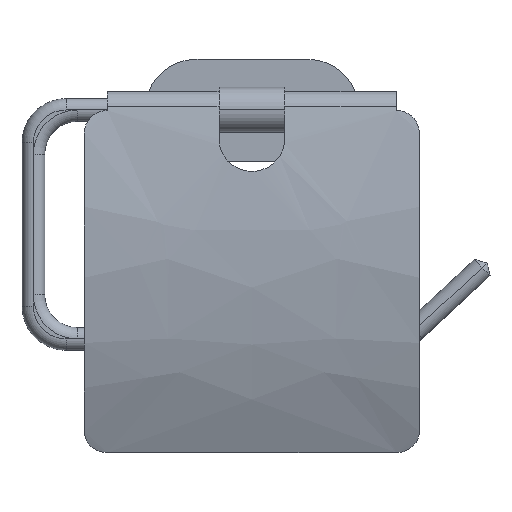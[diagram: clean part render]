
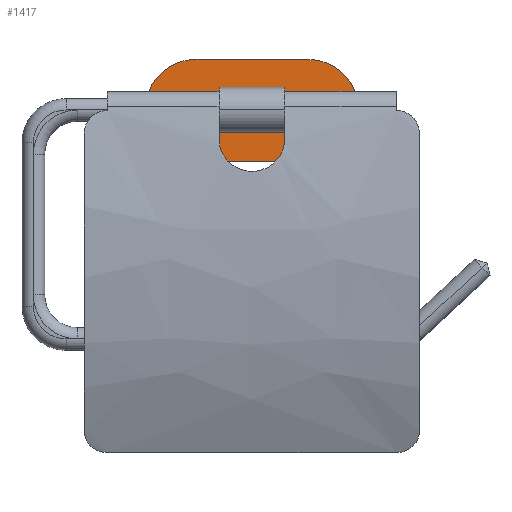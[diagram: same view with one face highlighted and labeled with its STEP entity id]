
A CAD part, top view. The second image highlights one B-rep face of the part: STEP entity #1417.
In plain terms, the highlighted planar face has unit normal (0, 0, 1).
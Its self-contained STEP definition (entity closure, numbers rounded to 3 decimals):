
#18 = CIRCLE ( 'NONE', #961, 3. ) ;
#40 = CARTESIAN_POINT ( 'NONE',  ( 17.01, -15.5, 10.37 ) ) ;
#43 = LINE ( 'NONE', #2805, #2610 ) ;
#70 = DIRECTION ( 'NONE',  ( -1., 0., 0. ) ) ;
#79 = VERTEX_POINT ( 'NONE', #2298 ) ;
#80 = ORIENTED_EDGE ( 'NONE', *, *, #1254, .F. ) ;
#98 = VERTEX_POINT ( 'NONE', #482 ) ;
#135 = CARTESIAN_POINT ( 'NONE',  ( -6.93, -5.875, 10.37 ) ) ;
#149 = CARTESIAN_POINT ( 'NONE',  ( -17.01, 15.5, 10.37 ) ) ;
#164 = CIRCLE ( 'NONE', #2861, 3. ) ;
#169 = CARTESIAN_POINT ( 'NONE',  ( -6.93, 5.875, 10.37 ) ) ;
#186 = AXIS2_PLACEMENT_3D ( 'NONE', #1834, #2072, #1358 ) ;
#198 = CARTESIAN_POINT ( 'NONE',  ( 17.01, 0.01, 10.37 ) ) ;
#211 = VERTEX_POINT ( 'NONE', #2126 ) ;
#271 = DIRECTION ( 'NONE',  ( -1., 0., 0. ) ) ;
#309 = DIRECTION ( 'NONE',  ( 1., 0., 0. ) ) ;
#311 = CIRCLE ( 'NONE', #837, 15.49 ) ;
#385 = LINE ( 'NONE', #135, #2482 ) ;
#421 = VERTEX_POINT ( 'NONE', #1809 ) ;
#422 = ORIENTED_EDGE ( 'NONE', *, *, #1550, .T. ) ;
#481 = CIRCLE ( 'NONE', #730, 15.49 ) ;
#482 = CARTESIAN_POINT ( 'NONE',  ( -32.5, -0.01, 10.37 ) ) ;
#502 = CARTESIAN_POINT ( 'NONE',  ( 9.93, 2.875, 10.37 ) ) ;
#547 = CARTESIAN_POINT ( 'NONE',  ( -6.93, -2.875, 10.37 ) ) ;
#559 = CARTESIAN_POINT ( 'NONE',  ( 6.93, -2.875, 10.37 ) ) ;
#584 = DIRECTION ( 'NONE',  ( 0., 1., 0. ) ) ;
#593 = VERTEX_POINT ( 'NONE', #1924 ) ;
#599 = VERTEX_POINT ( 'NONE', #1461 ) ;
#602 = ORIENTED_EDGE ( 'NONE', *, *, #1848, .T. ) ;
#607 = ORIENTED_EDGE ( 'NONE', *, *, #1511, .F. ) ;
#615 = FACE_BOUND ( 'NONE', #2670, .T. ) ;
#619 = EDGE_CURVE ( 'NONE', #1857, #1069, #1300, .T. ) ;
#655 = VERTEX_POINT ( 'NONE', #2887 ) ;
#656 = DIRECTION ( 'NONE',  ( 0., -1., 0. ) ) ;
#730 = AXIS2_PLACEMENT_3D ( 'NONE', #810, #2390, #1267 ) ;
#736 = VECTOR ( 'NONE', #584, 1000. ) ;
#738 = ORIENTED_EDGE ( 'NONE', *, *, #836, .F. ) ;
#766 = AXIS2_PLACEMENT_3D ( 'NONE', #2895, #1774, #1994 ) ;
#782 = DIRECTION ( 'NONE',  ( 0., 0., 1. ) ) ;
#810 = CARTESIAN_POINT ( 'NONE',  ( -17.01, -0.01, 10.37 ) ) ;
#836 = EDGE_CURVE ( 'NONE', #900, #599, #2009, .T. ) ;
#837 = AXIS2_PLACEMENT_3D ( 'NONE', #2344, #1443, #996 ) ;
#857 = VECTOR ( 'NONE', #1627, 1000. ) ;
#872 = ORIENTED_EDGE ( 'NONE', *, *, #619, .F. ) ;
#900 = VERTEX_POINT ( 'NONE', #169 ) ;
#904 = ORIENTED_EDGE ( 'NONE', *, *, #1800, .T. ) ;
#907 = EDGE_CURVE ( 'NONE', #2662, #1857, #1324, .T. ) ;
#918 = DIRECTION ( 'NONE',  ( 0., -1., 0. ) ) ;
#961 = AXIS2_PLACEMENT_3D ( 'NONE', #559, #782, #2352 ) ;
#996 = DIRECTION ( 'NONE',  ( 1., 0., 0. ) ) ;
#1034 = CARTESIAN_POINT ( 'NONE',  ( 9.93, -2.875, 10.37 ) ) ;
#1067 = CARTESIAN_POINT ( 'NONE',  ( -32.5, 0.01, 10.37 ) ) ;
#1069 = VERTEX_POINT ( 'NONE', #1389 ) ;
#1117 = ORIENTED_EDGE ( 'NONE', *, *, #1415, .F. ) ;
#1118 = CARTESIAN_POINT ( 'NONE',  ( 9.93, -2.875, 10.37 ) ) ;
#1143 = EDGE_CURVE ( 'NONE', #1861, #421, #1580, .T. ) ;
#1224 = EDGE_LOOP ( 'NONE', ( #1506, #1452, #904, #602, #2058, #2105, #422, #2770 ) ) ;
#1234 = LINE ( 'NONE', #149, #2676 ) ;
#1235 = FACE_OUTER_BOUND ( 'NONE', #1224, .T. ) ;
#1254 = EDGE_CURVE ( 'NONE', #655, #2662, #18, .T. ) ;
#1267 = DIRECTION ( 'NONE',  ( -1., 0., 0. ) ) ;
#1295 = CARTESIAN_POINT ( 'NONE',  ( -9.93, -2.875, 10.37 ) ) ;
#1300 = CIRCLE ( 'NONE', #766, 3. ) ;
#1310 = DIRECTION ( 'NONE',  ( 0., 0., 1. ) ) ;
#1322 = VERTEX_POINT ( 'NONE', #2025 ) ;
#1324 = LINE ( 'NONE', #1034, #736 ) ;
#1358 = DIRECTION ( 'NONE',  ( -1., 0., 0. ) ) ;
#1389 = CARTESIAN_POINT ( 'NONE',  ( 6.93, 5.875, 10.37 ) ) ;
#1415 = EDGE_CURVE ( 'NONE', #599, #2491, #2436, .T. ) ;
#1417 = ADVANCED_FACE ( 'NONE', ( #1235, #615 ), #2669, .F. ) ;
#1437 = LINE ( 'NONE', #1643, #1982 ) ;
#1443 = DIRECTION ( 'NONE',  ( 0., 0., 1. ) ) ;
#1452 = ORIENTED_EDGE ( 'NONE', *, *, #2856, .T. ) ;
#1461 = CARTESIAN_POINT ( 'NONE',  ( -9.93, 2.875, 10.37 ) ) ;
#1496 = ORIENTED_EDGE ( 'NONE', *, *, #907, .F. ) ;
#1506 = ORIENTED_EDGE ( 'NONE', *, *, #2465, .T. ) ;
#1511 = EDGE_CURVE ( 'NONE', #593, #655, #385, .T. ) ;
#1548 = AXIS2_PLACEMENT_3D ( 'NONE', #198, #1989, #1761 ) ;
#1550 = EDGE_CURVE ( 'NONE', #2659, #1861, #311, .T. ) ;
#1580 = LINE ( 'NONE', #1592, #857 ) ;
#1592 = CARTESIAN_POINT ( 'NONE',  ( 32.5, -0.01, 10.37 ) ) ;
#1627 = DIRECTION ( 'NONE',  ( 0., 1., 0. ) ) ;
#1636 = DIRECTION ( 'NONE',  ( 0., 0., 1. ) ) ;
#1643 = CARTESIAN_POINT ( 'NONE',  ( -6.93, 5.875, 10.37 ) ) ;
#1661 = DIRECTION ( 'NONE',  ( -1., 0., 0. ) ) ;
#1667 = DIRECTION ( 'NONE',  ( -1., 0., 0. ) ) ;
#1751 = EDGE_CURVE ( 'NONE', #98, #79, #481, .T. ) ;
#1761 = DIRECTION ( 'NONE',  ( -1., 0., 0. ) ) ;
#1774 = DIRECTION ( 'NONE',  ( 0., 0., 1. ) ) ;
#1800 = EDGE_CURVE ( 'NONE', #1322, #2250, #2353, .T. ) ;
#1809 = CARTESIAN_POINT ( 'NONE',  ( 32.5, 0.01, 10.37 ) ) ;
#1834 = CARTESIAN_POINT ( 'NONE',  ( -17.01, 0.01, 10.37 ) ) ;
#1844 = CARTESIAN_POINT ( 'NONE',  ( -6.93, 2.875, 10.37 ) ) ;
#1848 = EDGE_CURVE ( 'NONE', #2250, #98, #2422, .T. ) ;
#1857 = VERTEX_POINT ( 'NONE', #502 ) ;
#1861 = VERTEX_POINT ( 'NONE', #2726 ) ;
#1917 = DIRECTION ( 'NONE',  ( 1., 0., 0. ) ) ;
#1924 = CARTESIAN_POINT ( 'NONE',  ( -6.93, -5.875, 10.37 ) ) ;
#1982 = VECTOR ( 'NONE', #70, 1000. ) ;
#1983 = VECTOR ( 'NONE', #656, 1000. ) ;
#1989 = DIRECTION ( 'NONE',  ( 0., 0., -1. ) ) ;
#1994 = DIRECTION ( 'NONE',  ( -1., 0., 0. ) ) ;
#1998 = CARTESIAN_POINT ( 'NONE',  ( 17.01, 0.01, 10.37 ) ) ;
#2009 = CIRCLE ( 'NONE', #2777, 3. ) ;
#2025 = CARTESIAN_POINT ( 'NONE',  ( -17.01, 15.5, 10.37 ) ) ;
#2058 = ORIENTED_EDGE ( 'NONE', *, *, #1751, .T. ) ;
#2071 = DIRECTION ( 'NONE',  ( 0., 0., 1. ) ) ;
#2072 = DIRECTION ( 'NONE',  ( 0., 0., 1. ) ) ;
#2077 = AXIS2_PLACEMENT_3D ( 'NONE', #1998, #1310, #2208 ) ;
#2105 = ORIENTED_EDGE ( 'NONE', *, *, #2857, .T. ) ;
#2126 = CARTESIAN_POINT ( 'NONE',  ( 17.01, 15.5, 10.37 ) ) ;
#2208 = DIRECTION ( 'NONE',  ( -1., 0., 0. ) ) ;
#2250 = VERTEX_POINT ( 'NONE', #1067 ) ;
#2274 = VECTOR ( 'NONE', #918, 1000. ) ;
#2298 = CARTESIAN_POINT ( 'NONE',  ( -17.01, -15.5, 10.37 ) ) ;
#2344 = CARTESIAN_POINT ( 'NONE',  ( 17.01, -0.01, 10.37 ) ) ;
#2352 = DIRECTION ( 'NONE',  ( 1., 0., 0. ) ) ;
#2353 = CIRCLE ( 'NONE', #186, 15.49 ) ;
#2390 = DIRECTION ( 'NONE',  ( 0., 0., 1. ) ) ;
#2422 = LINE ( 'NONE', #2523, #2274 ) ;
#2428 = CARTESIAN_POINT ( 'NONE',  ( -9.93, -2.875, 10.37 ) ) ;
#2436 = LINE ( 'NONE', #1295, #1983 ) ;
#2465 = EDGE_CURVE ( 'NONE', #421, #211, #2525, .T. ) ;
#2482 = VECTOR ( 'NONE', #309, 1000. ) ;
#2491 = VERTEX_POINT ( 'NONE', #2428 ) ;
#2518 = ORIENTED_EDGE ( 'NONE', *, *, #2672, .F. ) ;
#2523 = CARTESIAN_POINT ( 'NONE',  ( -32.5, -0.01, 10.37 ) ) ;
#2525 = CIRCLE ( 'NONE', #2077, 15.49 ) ;
#2610 = VECTOR ( 'NONE', #1917, 1000. ) ;
#2659 = VERTEX_POINT ( 'NONE', #40 ) ;
#2662 = VERTEX_POINT ( 'NONE', #1118 ) ;
#2669 = PLANE ( 'NONE',  #1548 ) ;
#2670 = EDGE_LOOP ( 'NONE', ( #872, #1496, #80, #607, #2716, #1117, #738, #2518 ) ) ;
#2672 = EDGE_CURVE ( 'NONE', #1069, #900, #1437, .T. ) ;
#2676 = VECTOR ( 'NONE', #1667, 1000. ) ;
#2703 = EDGE_CURVE ( 'NONE', #2491, #593, #164, .T. ) ;
#2716 = ORIENTED_EDGE ( 'NONE', *, *, #2703, .F. ) ;
#2726 = CARTESIAN_POINT ( 'NONE',  ( 32.5, -0.01, 10.37 ) ) ;
#2770 = ORIENTED_EDGE ( 'NONE', *, *, #1143, .T. ) ;
#2777 = AXIS2_PLACEMENT_3D ( 'NONE', #1844, #1636, #1661 ) ;
#2805 = CARTESIAN_POINT ( 'NONE',  ( -17.01, -15.5, 10.37 ) ) ;
#2856 = EDGE_CURVE ( 'NONE', #211, #1322, #1234, .T. ) ;
#2857 = EDGE_CURVE ( 'NONE', #79, #2659, #43, .T. ) ;
#2861 = AXIS2_PLACEMENT_3D ( 'NONE', #547, #2071, #271 ) ;
#2887 = CARTESIAN_POINT ( 'NONE',  ( 6.93, -5.875, 10.37 ) ) ;
#2895 = CARTESIAN_POINT ( 'NONE',  ( 6.93, 2.875, 10.37 ) ) ;
